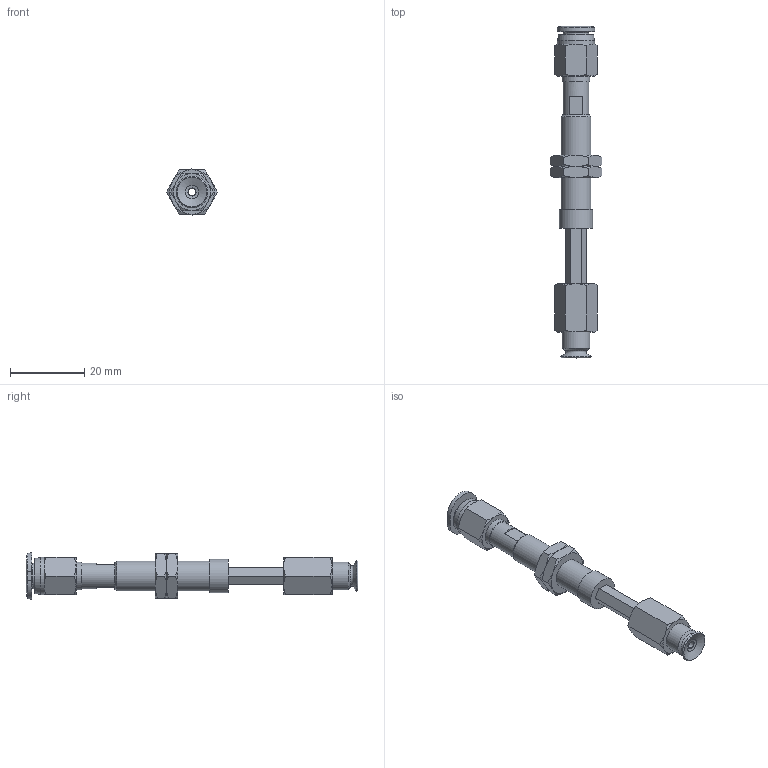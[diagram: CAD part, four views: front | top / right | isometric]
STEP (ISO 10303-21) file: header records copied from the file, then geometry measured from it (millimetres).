
FILE_DESCRIPTION(('STEP AP203'),'1');
FILE_NAME('-O.stp','2025-08-27T03:06:00',(' '),(' '),'Spatial InterOp 3D',' ',' ');
FILE_SCHEMA(('CONFIG_CONTROL_DESIGN'));
Length unit declared in the file: millimetre
Products named in the file (7): BNABPFTH-8A-15-※-O; ADAPTER; NAPATH-10A-15--M; Nut-8A-15-h; NAPFTH-8A-15-FBODY; BPFG-8A-※; PC-C_06-M5
Assembly tree (7 placements, depth 2):
  BNABPFTH-8A-15-※-O
    ADAPTER
    NAPATH-10A-15--M
    Nut-8A-15-h  x2
    NAPFTH-8A-15-FBODY
    BPFG-8A-※
    PC-C_06-M5
Bounding box: 13.86 x 89.48 x 12.4 mm (x, y, z)
Volume: 3823.3 mm3; surface area: 5712.1 mm2
Topology: 6 solids, 9 shells, 174 faces, 368 edges, 223 vertices
Faces by surface type: plane 69, cone 62, cylinder 23, torus 12, bspline 5, revolution 3
Full cylindrical faces by diameter (mm): 2 x3, 4 x4, 4.134 x1, 5 x1, 6 x2, 7 x2, 7.188 x2, 7.4 x1, 7.5 x1, 8 x1, 8.2 x1, 9 x1, 10 x1
Entity records: 4515 total; most frequent: CARTESIAN_POINT 1271, DIRECTION 597, ORIENTED_EDGE 522, EDGE_CURVE 263, AXIS2_PLACEMENT_3D 259, EDGE_LOOP 222, VERTEX_POINT 185, FACE_OUTER_BOUND 124
